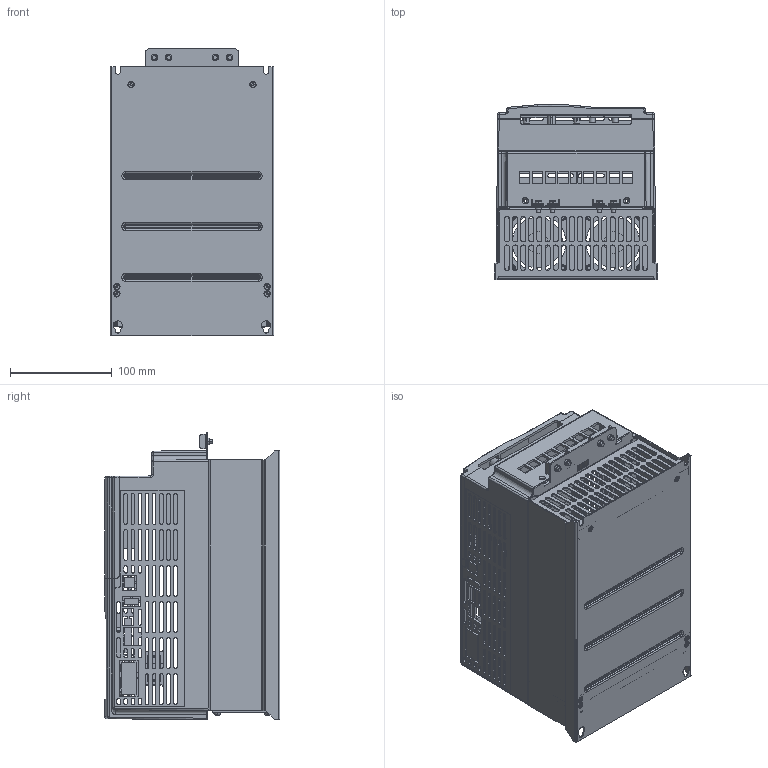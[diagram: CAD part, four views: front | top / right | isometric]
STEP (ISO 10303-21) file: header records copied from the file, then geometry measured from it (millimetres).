
FILE_DESCRIPTION((''),'2;1');
FILE_NAME('ASM0001_ASM','2024-05-23T',('Lenovo'),(''),'CREO PARAMETRIC BY PTC INC, 2016130','CREO PARAMETRIC BY PTC INC, 2016130','');
FILE_SCHEMA(('CONFIG_CONTROL_DESIGN'));
Products named in the file (51): 0302-BANJINFENGJIJIA_12_1_1; 0302-BANJINFENGJIJIA_12_2_1; 0302-BANJINFENGJIJIA_12_3_1; 0302-BANJINFENGJIJIA_12_4_1; 0302-BANJINFENGJIJIA_12_5_1; 0302-BANJINFENGJIJIA_12_6_1; 0302-BANJINFENGJIJIA_12_7_1; 0302-BANJINFENGJIJIA_12_8_1; 0302-BANJINFENGJIJIA_12_9_1; 0302-BANJINFENGJIJIA_12_10_1; 0302-BANJINFENGJIJIA_12_11_1; 0302-BANJINFENGJIJIA_12_ASM_1_ASM; 0301-01-BANJINSHANGJIA_12_1_1; 0301-01-BANJINSHANGJIA_12_2_1; 0301-01-BANJINSHANGJIA_12_3_1; 0301-01-BANJINSHANGJIA_12_4_1; 0301-01-BANJINSHANGJIA_12_5_1; 0301-01-BANJINSHANGJIA_12_6_1; 0301-01-BANJINSHANGJIA_12_7_1; 0301-01-BANJINSHANGJIA_12_8_1; 0301-01-BANJINSHANGJIA_12_9_1; 0301-01-BANJINSHANGJIA_12_10_1; 0301-01-BANJINSHANGJIA_12_11_1; 0301-01-BANJINSHANGJIA_12_12_1; 0301-01-BANJINSHANGJIA_12_13_1; 0301-01-BANJINSHANGJIA_12_14_1; 0301-01-BANJINSHANGJIA_12_15_1; 0301-01-BANJINSHANGJIA_12_16_1; 0301-01-BANJINSHANGJIA_12_17_1; 0301-01-BANJINSHANGJIA_12_ASM_1_ASM; 0301-02-BANJINXIAJIA_13_1; 0301-03-BANJINHOUBAN_11_1; 0301_04_DANGBAN_1_1_1; 0301_04_DANGBAN_1_2_1; 0301_04_DANGBAN_1_ASM_1_ASM; GB12617-90_3X7_30-R0_2_1; 0301-DIZUOBANJIN_ASM_11_ASM_1_ASM; E5-DIZUO_ASM_3_ASM_1_ASM; SHANGGAI_E5C03-0601_1_1; XIAOGAI-E5C03-0602-T_4_1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
Assembly tree (78 placements, depth 7):
  ASM0001_ASM
    E5D03_ASM_1_ASM
      E5-ZHUANGPEITI_ASM_10_ASM_1_ASM
        E5-DIZUO_ASM_3_ASM_1_ASM
          0302-BANJINFENGJIJIA_12_ASM_1_ASM
            0302-BANJINFENGJIJIA_12_1_1
            0302-BANJINFENGJIJIA_12_2_1
            0302-BANJINFENGJIJIA_12_3_1
            0302-BANJINFENGJIJIA_12_4_1
            0302-BANJINFENGJIJIA_12_5_1
            0302-BANJINFENGJIJIA_12_6_1
            0302-BANJINFENGJIJIA_12_7_1
            0302-BANJINFENGJIJIA_12_8_1
            0302-BANJINFENGJIJIA_12_9_1
            0302-BANJINFENGJIJIA_12_10_1
            0302-BANJINFENGJIJIA_12_11_1
          0301-DIZUOBANJIN_ASM_11_ASM_1_ASM
            0301-01-BANJINSHANGJIA_12_ASM_1_ASM
              0301-01-BANJINSHANGJIA_12_1_1
              0301-01-BANJINSHANGJIA_12_2_1
              0301-01-BANJINSHANGJIA_12_3_1
              0301-01-BANJINSHANGJIA_12_4_1
              0301-01-BANJINSHANGJIA_12_5_1
              0301-01-BANJINSHANGJIA_12_6_1
              0301-01-BANJINSHANGJIA_12_7_1
              0301-01-BANJINSHANGJIA_12_8_1
              0301-01-BANJINSHANGJIA_12_9_1
              0301-01-BANJINSHANGJIA_12_10_1
              0301-01-BANJINSHANGJIA_12_11_1
              0301-01-BANJINSHANGJIA_12_12_1
              0301-01-BANJINSHANGJIA_12_13_1
              0301-01-BANJINSHANGJIA_12_14_1
              0301-01-BANJINSHANGJIA_12_15_1
              0301-01-BANJINSHANGJIA_12_16_1
              0301-01-BANJINSHANGJIA_12_17_1
            0301-02-BANJINXIAJIA_13_1
            0301-03-BANJINHOUBAN_11_1
            0301_04_DANGBAN_1_ASM_1_ASM  x2
              0301_04_DANGBAN_1_1_1
              0301_04_DANGBAN_1_2_1
            GB12617-90_3X7_30-R0_2_1  x15
        SHANGGAI_E5C03-0601_1_1
        XIAOGAI-E5C03-0602-T_4_1
        6025_1_ASM_1_ASM  x2
          6025_1_1_1
          6025_1_2_1
        M4X10_1_1  x2
        0303-XIAOBANJIN_1_1  x2
        M4X25_GB818_1_1  x8
        M4-JIEDI_1_1  x4
        KONGZHIBAN1_1_1
Bounding box: 161 x 173 x 283 mm (x, y, z)
Volume: 464758 mm3; surface area: 579089.2 mm2
Topology: 71 solids, 71 shells, 4124 faces, 11529 edges, 7529 vertices
Faces by surface type: plane 2149, cylinder 1292, extrusion 241, bspline 189, cone 124, torus 76, sphere 53
Entity records: 128031 total; most frequent: CARTESIAN_POINT 36305, ORIENTED_EDGE 20016, DIRECTION 16861, EDGE_CURVE 10008, VERTEX_POINT 6585, VECTOR 6497, LINE 6256, AXIS2_PLACEMENT_3D 5182
